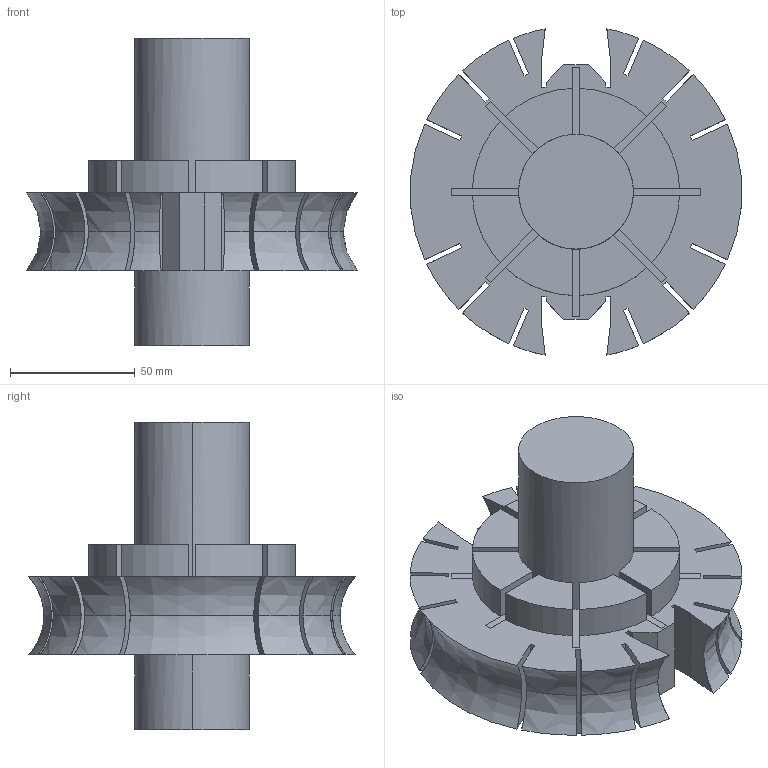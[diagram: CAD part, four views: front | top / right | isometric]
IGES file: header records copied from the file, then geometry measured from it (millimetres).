
Start section: IMSI TurboCAD v14.0
Global section: author: NULL; organization: NULL; date: 20231227.191959; units: millimetre
Bounding box: 132.53 x 130.68 x 123.1 mm (x, y, z)
Surface area: 68945 mm2 (no closed solid volume)
Topology: 0 solids, 0 shells, 142 faces, 828 edges, 828 vertices
Faces by surface type: extrusion 102, revolution 40
